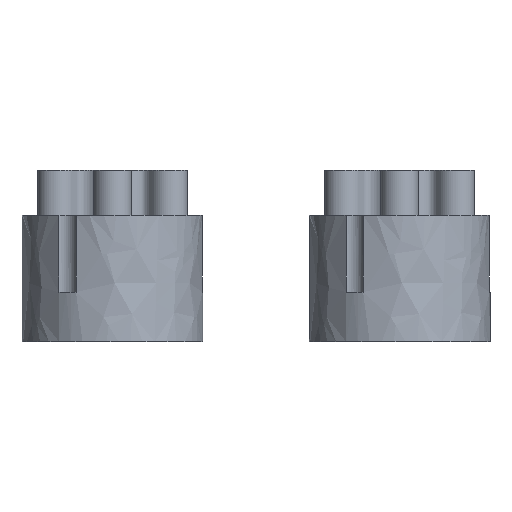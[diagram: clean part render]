
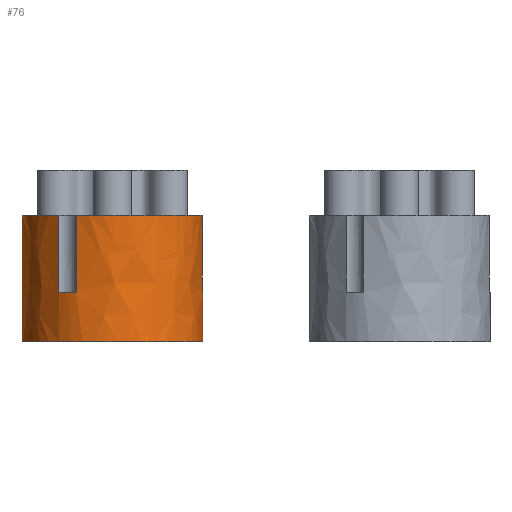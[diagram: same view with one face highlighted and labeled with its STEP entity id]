
A CAD part, left-side view. The second image highlights one B-rep face of the part: STEP entity #76.
In plain terms, the highlighted free-form (B-spline) face has degree [1, 2] with [2, 5] control points.
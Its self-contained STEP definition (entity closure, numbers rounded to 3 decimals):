
#76=ADVANCED_FACE('',(#136),#960,.T.);
#136=FACE_OUTER_BOUND('',#199,.T.);
#199=EDGE_LOOP('',(#293,#294,#295,#296,#297,#298,#299,#300,#301,#302));
#293=ORIENTED_EDGE('',*,*,#582,.T.);
#294=ORIENTED_EDGE('',*,*,#583,.T.);
#295=ORIENTED_EDGE('',*,*,#562,.F.);
#296=ORIENTED_EDGE('',*,*,#559,.F.);
#297=ORIENTED_EDGE('',*,*,#557,.T.);
#298=ORIENTED_EDGE('',*,*,#574,.F.);
#299=ORIENTED_EDGE('',*,*,#571,.T.);
#300=ORIENTED_EDGE('',*,*,#573,.F.);
#301=ORIENTED_EDGE('',*,*,#572,.T.);
#302=ORIENTED_EDGE('',*,*,#584,.F.);
#557=EDGE_CURVE('',#844,#845,#701,.T.);
#559=EDGE_CURVE('',#844,#846,#703,.T.);
#562=EDGE_CURVE('',#846,#838,#706,.T.);
#571=EDGE_CURVE('',#852,#853,#715,.T.);
#572=EDGE_CURVE('',#854,#851,#716,.T.);
#573=EDGE_CURVE('',#854,#853,#717,.T.);
#574=EDGE_CURVE('',#852,#845,#718,.T.);
#582=EDGE_CURVE('',#859,#860,#726,.T.);
#583=EDGE_CURVE('',#860,#838,#727,.T.);
#584=EDGE_CURVE('',#859,#851,#728,.T.);
#701=(
BOUNDED_CURVE()
B_SPLINE_CURVE(1,(#1848,#1849),.UNSPECIFIED.,.F.,.F.)
B_SPLINE_CURVE_WITH_KNOTS((2,2),(-13.5,-5.),.UNSPECIFIED.)
CURVE()
GEOMETRIC_REPRESENTATION_ITEM()
RATIONAL_B_SPLINE_CURVE((1.,1.))
REPRESENTATION_ITEM('')
);
#703=(
BOUNDED_CURVE()
B_SPLINE_CURVE(2,(#1853,#1854,#1855),.UNSPECIFIED.,.F.,.F.)
B_SPLINE_CURVE_WITH_KNOTS((3,3),(61.647,62.832),
 .UNSPECIFIED.)
CURVE()
GEOMETRIC_REPRESENTATION_ITEM()
RATIONAL_B_SPLINE_CURVE((1.,0.999,1.))
REPRESENTATION_ITEM('')
);
#706=(
BOUNDED_CURVE()
B_SPLINE_CURVE(1,(#1866,#1867),.UNSPECIFIED.,.F.,.F.)
B_SPLINE_CURVE_WITH_KNOTS((2,2),(13.5,19.),.UNSPECIFIED.)
CURVE()
GEOMETRIC_REPRESENTATION_ITEM()
RATIONAL_B_SPLINE_CURVE((1.,1.))
REPRESENTATION_ITEM('')
);
#715=(
BOUNDED_CURVE()
B_SPLINE_CURVE(1,(#1898,#1899),.UNSPECIFIED.,.F.,.F.)
B_SPLINE_CURVE_WITH_KNOTS((2,2),(5.,13.5),.UNSPECIFIED.)
CURVE()
GEOMETRIC_REPRESENTATION_ITEM()
RATIONAL_B_SPLINE_CURVE((1.,1.))
REPRESENTATION_ITEM('')
);
#716=(
BOUNDED_CURVE()
B_SPLINE_CURVE(1,(#1900,#1901),.UNSPECIFIED.,.F.,.F.)
B_SPLINE_CURVE_WITH_KNOTS((2,2),(-13.5,-5.),.UNSPECIFIED.)
CURVE()
GEOMETRIC_REPRESENTATION_ITEM()
RATIONAL_B_SPLINE_CURVE((1.,1.))
REPRESENTATION_ITEM('')
);
#717=(
BOUNDED_CURVE()
B_SPLINE_CURVE(2,(#1902,#1903,#1904),.UNSPECIFIED.,.F.,.F.)
B_SPLINE_CURVE_WITH_KNOTS((3,3),(40.722,42.826),
 .UNSPECIFIED.)
CURVE()
GEOMETRIC_REPRESENTATION_ITEM()
RATIONAL_B_SPLINE_CURVE((1.,0.994,1.))
REPRESENTATION_ITEM('')
);
#718=(
BOUNDED_CURVE()
B_SPLINE_CURVE(2,(#1905,#1906,#1907,#1908,#1909),.UNSPECIFIED.,.F.,.F.)
B_SPLINE_CURVE_WITH_KNOTS((3,2,3),(42.826,47.124,61.647),
 .UNSPECIFIED.)
CURVE()
GEOMETRIC_REPRESENTATION_ITEM()
RATIONAL_B_SPLINE_CURVE((1.,0.979,1.,0.745,1.))
REPRESENTATION_ITEM('')
);
#726=(
BOUNDED_CURVE()
B_SPLINE_CURVE(1,(#2141,#2142),.UNSPECIFIED.,.F.,.F.)
B_SPLINE_CURVE_WITH_KNOTS((2,2),(5.,19.),.UNSPECIFIED.)
CURVE()
GEOMETRIC_REPRESENTATION_ITEM()
RATIONAL_B_SPLINE_CURVE((1.,1.))
REPRESENTATION_ITEM('')
);
#727=(
BOUNDED_CURVE()
B_SPLINE_CURVE(2,(#2143,#2144,#2145,#2146,#2147),.UNSPECIFIED.,.F.,.F.)
B_SPLINE_CURVE_WITH_KNOTS((3,2,3),(31.416,47.124,62.832),
 .UNSPECIFIED.)
CURVE()
GEOMETRIC_REPRESENTATION_ITEM()
RATIONAL_B_SPLINE_CURVE((1.,0.707,1.,0.707,1.))
REPRESENTATION_ITEM('')
);
#728=(
BOUNDED_CURVE()
B_SPLINE_CURVE(2,(#2148,#2149,#2150),.UNSPECIFIED.,.F.,.F.)
B_SPLINE_CURVE_WITH_KNOTS((3,3),(31.416,40.722),
 .UNSPECIFIED.)
CURVE()
GEOMETRIC_REPRESENTATION_ITEM()
RATIONAL_B_SPLINE_CURVE((1.,0.892,1.))
REPRESENTATION_ITEM('')
);
#838=VERTEX_POINT('',#1592);
#844=VERTEX_POINT('',#1598);
#845=VERTEX_POINT('',#1599);
#846=VERTEX_POINT('',#1600);
#851=VERTEX_POINT('',#1605);
#852=VERTEX_POINT('',#1606);
#853=VERTEX_POINT('',#1607);
#854=VERTEX_POINT('',#1608);
#859=VERTEX_POINT('',#1613);
#860=VERTEX_POINT('',#1614);
#960=(
BOUNDED_SURFACE()
B_SPLINE_SURFACE(1,2,((#1311,#1312,#1313,#1314,#1315),(#1316,#1317,#1318,
#1319,#1320)),.UNSPECIFIED.,.F.,.F.,.F.)
B_SPLINE_SURFACE_WITH_KNOTS((2,2),(3,2,3),(0.,19.),(31.416,47.124,
62.832),.UNSPECIFIED.)
GEOMETRIC_REPRESENTATION_ITEM()
RATIONAL_B_SPLINE_SURFACE(((1.,0.707,1.,0.707,1.),
(1.,0.707,1.,0.707,1.)))
REPRESENTATION_ITEM('')
SURFACE()
);
#1311=CARTESIAN_POINT('',(2648.357,-207.656,19.));
#1312=CARTESIAN_POINT('',(2638.357,-207.656,19.));
#1313=CARTESIAN_POINT('',(2638.357,-217.656,19.));
#1314=CARTESIAN_POINT('',(2638.357,-227.656,19.));
#1315=CARTESIAN_POINT('',(2648.357,-227.656,19.));
#1316=CARTESIAN_POINT('',(2648.357,-207.656,0.));
#1317=CARTESIAN_POINT('',(2638.357,-207.656,0.));
#1318=CARTESIAN_POINT('',(2638.357,-217.656,0.));
#1319=CARTESIAN_POINT('',(2638.357,-227.656,0.));
#1320=CARTESIAN_POINT('',(2648.357,-227.656,0.));
#1592=CARTESIAN_POINT('',(2648.357,-227.656,0.));
#1598=CARTESIAN_POINT('',(2647.27,-227.597,5.5));
#1599=CARTESIAN_POINT('',(2647.27,-227.597,14.));
#1600=CARTESIAN_POINT('',(2648.357,-227.656,5.5));
#1605=CARTESIAN_POINT('',(2640.292,-211.744,14.));
#1606=CARTESIAN_POINT('',(2639.205,-213.628,14.));
#1607=CARTESIAN_POINT('',(2639.205,-213.628,5.5));
#1608=CARTESIAN_POINT('',(2640.292,-211.744,5.5));
#1613=CARTESIAN_POINT('',(2648.357,-207.656,14.));
#1614=CARTESIAN_POINT('',(2648.357,-207.656,0.));
#1848=CARTESIAN_POINT('',(2647.27,-227.597,5.5));
#1849=CARTESIAN_POINT('',(2647.27,-227.597,14.));
#1853=CARTESIAN_POINT('',(2647.27,-227.597,5.5));
#1854=CARTESIAN_POINT('',(2647.812,-227.656,5.5));
#1855=CARTESIAN_POINT('',(2648.357,-227.656,5.5));
#1866=CARTESIAN_POINT('',(2648.357,-227.656,5.5));
#1867=CARTESIAN_POINT('',(2648.357,-227.656,0.));
#1898=CARTESIAN_POINT('',(2639.205,-213.628,14.));
#1899=CARTESIAN_POINT('',(2639.205,-213.628,5.5));
#1900=CARTESIAN_POINT('',(2640.292,-211.744,5.5));
#1901=CARTESIAN_POINT('',(2640.292,-211.744,14.));
#1902=CARTESIAN_POINT('',(2640.292,-211.744,5.5));
#1903=CARTESIAN_POINT('',(2639.645,-212.627,5.5));
#1904=CARTESIAN_POINT('',(2639.205,-213.628,5.5));
#1905=CARTESIAN_POINT('',(2639.205,-213.628,14.));
#1906=CARTESIAN_POINT('',(2638.357,-215.553,14.));
#1907=CARTESIAN_POINT('',(2638.357,-217.656,14.));
#1908=CARTESIAN_POINT('',(2638.357,-226.622,14.));
#1909=CARTESIAN_POINT('',(2647.27,-227.597,14.));
#2141=CARTESIAN_POINT('',(2648.357,-207.656,14.));
#2142=CARTESIAN_POINT('',(2648.357,-207.656,0.));
#2143=CARTESIAN_POINT('',(2648.357,-207.656,0.));
#2144=CARTESIAN_POINT('',(2638.357,-207.656,0.));
#2145=CARTESIAN_POINT('',(2638.357,-217.656,0.));
#2146=CARTESIAN_POINT('',(2638.357,-227.656,0.));
#2147=CARTESIAN_POINT('',(2648.357,-227.656,0.));
#2148=CARTESIAN_POINT('',(2648.357,-207.656,14.));
#2149=CARTESIAN_POINT('',(2643.289,-207.656,14.));
#2150=CARTESIAN_POINT('',(2640.292,-211.744,14.));
